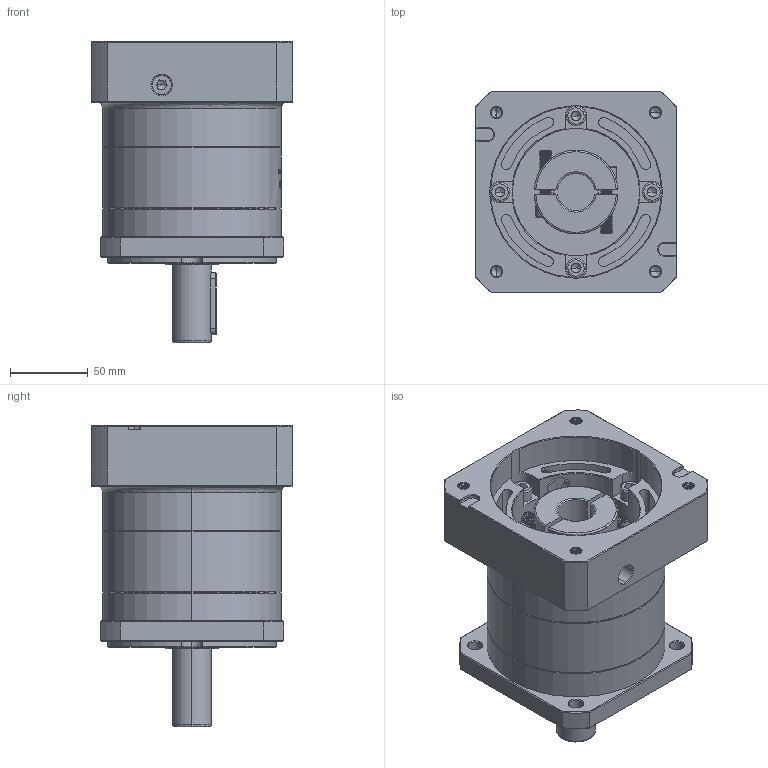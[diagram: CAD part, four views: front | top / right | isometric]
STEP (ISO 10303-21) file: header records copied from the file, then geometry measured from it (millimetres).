
FILE_DESCRIPTION (( 'STEP AP214' ), '1' );
FILE_NAME ('ZF120A-D25-L1-24-110-145-M8.step', '2023-03-07T09:28:40', ( '' ), ( '' ), 'SwSTEP 2.0', 'SolidWorks 2016', '' );
FILE_SCHEMA (( 'AUTOMOTIVE_DESIGN' ));
Length unit declared in the file: millimetre
Products named in the file (1): ZF120A-D25-L1-24-110-145-M8
Bounding box: 130 x 130 x 194 mm (x, y, z)
Volume: 1453810.7 mm3; surface area: 181656.2 mm2
Topology: 6 solids, 6 shells, 2003 faces, 5271 edges, 3360 vertices
Faces by surface type: plane 883, cylinder 449, cone 328, bspline 323, torus 20
Entity records: 110291 total; most frequent: CARTESIAN_POINT 42628, ORIENTED_EDGE 10482, DIRECTION 8160, EDGE_CURVE 5241, VERTEX_POINT 3360, VECTOR 2824, LINE 2824, AXIS2_PLACEMENT_3D 2668
